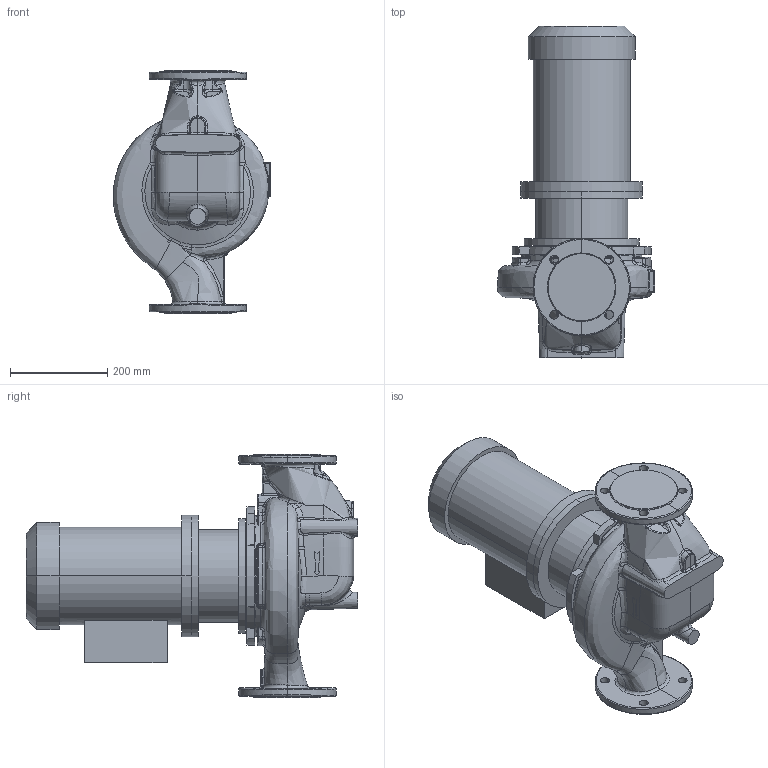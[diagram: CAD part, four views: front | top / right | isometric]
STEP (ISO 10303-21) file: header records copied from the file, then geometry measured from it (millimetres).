
FILE_DESCRIPTION (( 'STEP AP214' ), '1' );
FILE_NAME ('KRL 80-210-4-4.STEP', '2026-04-06T11:24:27', ( '' ), ( '' ), 'SwSTEP 2.0', 'SolidWorks 2016', '' );
FILE_SCHEMA (( 'AUTOMOTIVE_DESIGN' ));
Length unit declared in the file: millimetre
Products named in the file (1): KRL 80-210-4-4
Bounding box: 323.28 x 682.3 x 500 mm (x, y, z)
Volume: 30986269.9 mm3; surface area: 1228192.5 mm2
Topology: 4 solids, 4 shells, 669 faces, 1656 edges, 986 vertices
Faces by surface type: bspline 324, plane 126, cylinder 120, cone 50, torus 28, sphere 21
Entity records: 69302 total; most frequent: CARTESIAN_POINT 49060, ORIENTED_EDGE 3256, DIRECTION 1900, EDGE_CURVE 1628, VERTEX_POINT 986, AXIS2_PLACEMENT_3D 811, B_SPLINE_CURVE_WITH_KNOTS 757, EDGE_LOOP 704
